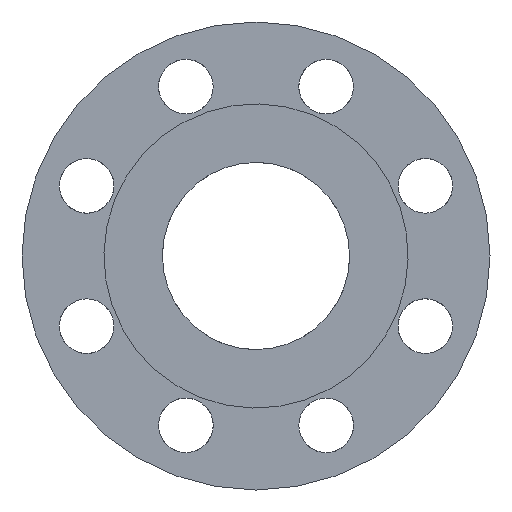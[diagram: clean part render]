
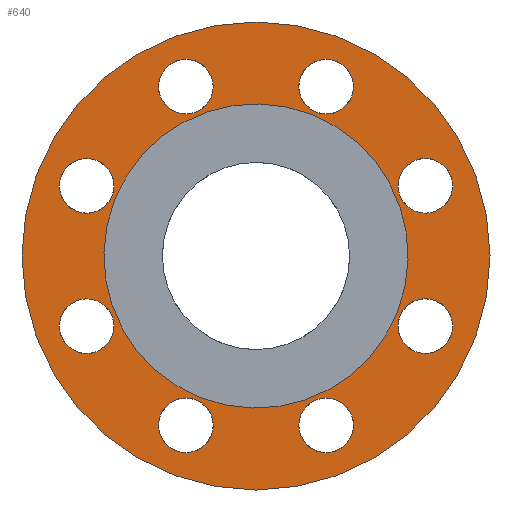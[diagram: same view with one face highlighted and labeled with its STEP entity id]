
A CAD part, front view. The second image highlights one B-rep face of the part: STEP entity #640.
In plain terms, the highlighted planar face has unit normal (0, -1, 0).
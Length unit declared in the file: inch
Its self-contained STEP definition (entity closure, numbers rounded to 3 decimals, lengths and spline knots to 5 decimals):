
#23=PLANE('',#722);
#74=FACE_BOUND('',#219,.T.);
#75=FACE_BOUND('',#220,.T.);
#76=FACE_BOUND('',#221,.T.);
#77=FACE_BOUND('',#222,.T.);
#78=FACE_BOUND('',#223,.T.);
#79=FACE_BOUND('',#224,.T.);
#80=FACE_BOUND('',#225,.T.);
#81=FACE_BOUND('',#226,.T.);
#82=FACE_BOUND('',#227,.T.);
#131=FACE_OUTER_BOUND('',#218,.T.);
#218=EDGE_LOOP('',(#503));
#219=EDGE_LOOP('',(#504));
#220=EDGE_LOOP('',(#505));
#221=EDGE_LOOP('',(#506));
#222=EDGE_LOOP('',(#507));
#223=EDGE_LOOP('',(#508));
#224=EDGE_LOOP('',(#509));
#225=EDGE_LOOP('',(#510));
#226=EDGE_LOOP('',(#511));
#227=EDGE_LOOP('',(#512));
#292=CIRCLE('',#716,2.4375);
#295=CIRCLE('',#723,3.75);
#296=CIRCLE('',#724,0.4375);
#297=CIRCLE('',#725,0.4375);
#298=CIRCLE('',#726,0.4375);
#299=CIRCLE('',#727,0.4375);
#300=CIRCLE('',#728,0.4375);
#301=CIRCLE('',#729,0.4375);
#302=CIRCLE('',#730,0.4375);
#303=CIRCLE('',#731,0.4375);
#349=VERTEX_POINT('',#1049);
#352=VERTEX_POINT('',#1059);
#353=VERTEX_POINT('',#1061);
#354=VERTEX_POINT('',#1063);
#355=VERTEX_POINT('',#1065);
#356=VERTEX_POINT('',#1067);
#357=VERTEX_POINT('',#1069);
#358=VERTEX_POINT('',#1071);
#359=VERTEX_POINT('',#1073);
#360=VERTEX_POINT('',#1075);
#406=EDGE_CURVE('',#349,#349,#292,.T.);
#409=EDGE_CURVE('',#352,#352,#295,.T.);
#410=EDGE_CURVE('',#353,#353,#296,.T.);
#411=EDGE_CURVE('',#354,#354,#297,.T.);
#412=EDGE_CURVE('',#355,#355,#298,.T.);
#413=EDGE_CURVE('',#356,#356,#299,.T.);
#414=EDGE_CURVE('',#357,#357,#300,.T.);
#415=EDGE_CURVE('',#358,#358,#301,.T.);
#416=EDGE_CURVE('',#359,#359,#302,.T.);
#417=EDGE_CURVE('',#360,#360,#303,.T.);
#503=ORIENTED_EDGE('',*,*,#409,.F.);
#504=ORIENTED_EDGE('',*,*,#406,.T.);
#505=ORIENTED_EDGE('',*,*,#410,.T.);
#506=ORIENTED_EDGE('',*,*,#411,.T.);
#507=ORIENTED_EDGE('',*,*,#412,.T.);
#508=ORIENTED_EDGE('',*,*,#413,.T.);
#509=ORIENTED_EDGE('',*,*,#414,.T.);
#510=ORIENTED_EDGE('',*,*,#415,.T.);
#511=ORIENTED_EDGE('',*,*,#416,.T.);
#512=ORIENTED_EDGE('',*,*,#417,.T.);
#640=ADVANCED_FACE('',(#131,#74,#75,#76,#77,#78,#79,#80,#81,#82),#23,.F.);
#716=AXIS2_PLACEMENT_3D('',#1050,#879,#880);
#722=AXIS2_PLACEMENT_3D('',#1058,#891,#892);
#723=AXIS2_PLACEMENT_3D('',#1060,#893,#894);
#724=AXIS2_PLACEMENT_3D('',#1062,#895,#896);
#725=AXIS2_PLACEMENT_3D('',#1064,#897,#898);
#726=AXIS2_PLACEMENT_3D('',#1066,#899,#900);
#727=AXIS2_PLACEMENT_3D('',#1068,#901,#902);
#728=AXIS2_PLACEMENT_3D('',#1070,#903,#904);
#729=AXIS2_PLACEMENT_3D('',#1072,#905,#906);
#730=AXIS2_PLACEMENT_3D('',#1074,#907,#908);
#731=AXIS2_PLACEMENT_3D('',#1076,#909,#910);
#879=DIRECTION('center_axis',(0.,1.,0.));
#880=DIRECTION('ref_axis',(-0.48,0.,0.877));
#891=DIRECTION('center_axis',(0.,1.,0.));
#892=DIRECTION('ref_axis',(0.,0.,-1.));
#893=DIRECTION('center_axis',(0.,1.,0.));
#894=DIRECTION('ref_axis',(-1.,0.,0.));
#895=DIRECTION('center_axis',(0.,1.,0.));
#896=DIRECTION('ref_axis',(-1.,0.,0.));
#897=DIRECTION('center_axis',(0.,1.,0.));
#898=DIRECTION('ref_axis',(-0.707,0.,-0.707));
#899=DIRECTION('center_axis',(0.,1.,0.));
#900=DIRECTION('ref_axis',(0.,0.,-1.));
#901=DIRECTION('center_axis',(0.,1.,0.));
#902=DIRECTION('ref_axis',(0.707,0.,-0.707));
#903=DIRECTION('center_axis',(0.,1.,0.));
#904=DIRECTION('ref_axis',(1.,0.,0.));
#905=DIRECTION('center_axis',(0.,1.,0.));
#906=DIRECTION('ref_axis',(0.707,0.,0.707));
#907=DIRECTION('center_axis',(0.,1.,0.));
#908=DIRECTION('ref_axis',(0.,0.,1.));
#909=DIRECTION('center_axis',(0.,1.,0.));
#910=DIRECTION('ref_axis',(-0.707,0.,0.707));
#1049=CARTESIAN_POINT('',(1.17009,0.375,-2.13829));
#1050=CARTESIAN_POINT('Origin',(0.,0.375,
0.));
#1058=CARTESIAN_POINT('Origin',(0.,0.375,
0.));
#1059=CARTESIAN_POINT('',(3.75,0.375,0.));
#1060=CARTESIAN_POINT('Origin',(0.,0.375,
0.));
#1061=CARTESIAN_POINT('',(-1.56163,0.375,2.7139));
#1062=CARTESIAN_POINT('Origin',(-1.12413,0.375,2.7139));
#1063=CARTESIAN_POINT('',(-3.02326,0.375,0.81477));
#1064=CARTESIAN_POINT('Origin',(-2.7139,0.375,1.12413));
#1065=CARTESIAN_POINT('',(-2.7139,0.375,-1.56163));
#1066=CARTESIAN_POINT('Origin',(-2.7139,0.375,-1.12413));
#1067=CARTESIAN_POINT('',(-0.81477,0.375,-3.02326));
#1068=CARTESIAN_POINT('Origin',(-1.12413,0.375,-2.7139));
#1069=CARTESIAN_POINT('',(1.56163,0.375,-2.7139));
#1070=CARTESIAN_POINT('Origin',(1.12413,0.375,-2.7139));
#1071=CARTESIAN_POINT('',(3.02326,0.375,-0.81477));
#1072=CARTESIAN_POINT('Origin',(2.7139,0.375,-1.12413));
#1073=CARTESIAN_POINT('',(2.7139,0.375,1.56163));
#1074=CARTESIAN_POINT('Origin',(2.7139,0.375,1.12413));
#1075=CARTESIAN_POINT('',(0.81477,0.375,3.02326));
#1076=CARTESIAN_POINT('Origin',(1.12413,0.375,2.7139));
